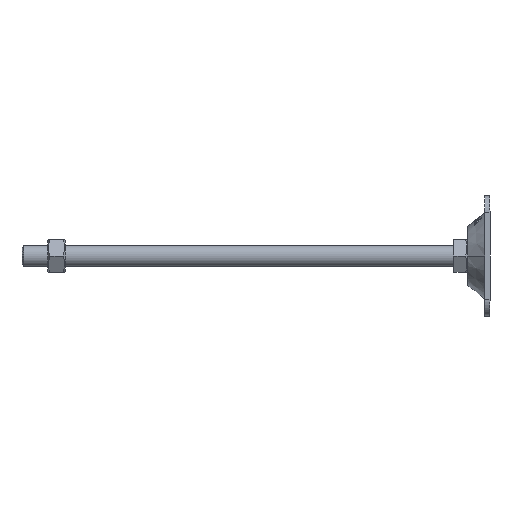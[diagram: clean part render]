
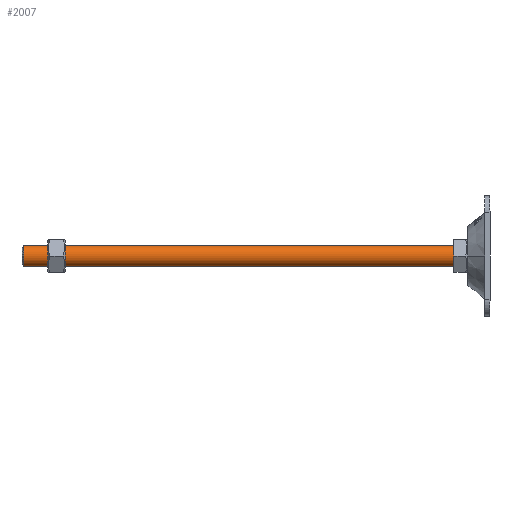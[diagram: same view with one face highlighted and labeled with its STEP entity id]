
A CAD part, left-side view. The second image highlights one B-rep face of the part: STEP entity #2007.
In plain terms, the highlighted cylindrical face has radius 6 mm (diameter 12 mm), a partial arc.
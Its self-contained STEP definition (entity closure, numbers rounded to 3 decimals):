
#22 = CARTESIAN_POINT ( 'NONE',  ( 0., 257., 6. ) ) ;
#530 = VERTEX_POINT ( 'NONE', #3983 ) ;
#635 = VECTOR ( 'NONE', #4912, 1000. ) ;
#636 = DIRECTION ( 'NONE',  ( 0., 0., -1. ) ) ;
#969 = CYLINDRICAL_SURFACE ( 'NONE', #4351, 6. ) ;
#1223 = DIRECTION ( 'NONE',  ( 0., 0., -1. ) ) ;
#1251 = LINE ( 'NONE', #2594, #635 ) ;
#1325 = LINE ( 'NONE', #5069, #2928 ) ;
#1410 = DIRECTION ( 'NONE',  ( 0., -1., 0. ) ) ;
#1411 = CARTESIAN_POINT ( 'NONE',  ( 0., 8., 6. ) ) ;
#1574 = CIRCLE ( 'NONE', #4933, 6. ) ;
#1758 = CARTESIAN_POINT ( 'NONE',  ( 0., 257., 0. ) ) ;
#2007 = ADVANCED_FACE ( 'NONE', ( #5075 ), #969, .T. ) ;
#2102 = ORIENTED_EDGE ( 'NONE', *, *, #3521, .T. ) ;
#2594 = CARTESIAN_POINT ( 'NONE',  ( 0., 6., 6. ) ) ;
#2739 = AXIS2_PLACEMENT_3D ( 'NONE', #3769, #5070, #2881 ) ;
#2881 = DIRECTION ( 'NONE',  ( 0., 0., 1. ) ) ;
#2928 = VECTOR ( 'NONE', #1410, 1000. ) ;
#2960 = ORIENTED_EDGE ( 'NONE', *, *, #5291, .F. ) ;
#2971 = DIRECTION ( 'NONE',  ( 0., -1., 0. ) ) ;
#3038 = CARTESIAN_POINT ( 'NONE',  ( 0., 6., 0. ) ) ;
#3521 = EDGE_CURVE ( 'NONE', #3691, #5187, #1574, .T. ) ;
#3691 = VERTEX_POINT ( 'NONE', #22 ) ;
#3769 = CARTESIAN_POINT ( 'NONE',  ( 0., 8., 0. ) ) ;
#3801 = ORIENTED_EDGE ( 'NONE', *, *, #5010, .T. ) ;
#3910 = CIRCLE ( 'NONE', #2739, 6. ) ;
#3983 = CARTESIAN_POINT ( 'NONE',  ( 0., 8., -6. ) ) ;
#4082 = DIRECTION ( 'NONE',  ( 0., -1., 0. ) ) ;
#4188 = EDGE_CURVE ( 'NONE', #5187, #530, #1325, .T. ) ;
#4351 = AXIS2_PLACEMENT_3D ( 'NONE', #3038, #2971, #636 ) ;
#4476 = EDGE_LOOP ( 'NONE', ( #2960, #2102, #4487, #3801 ) ) ;
#4487 = ORIENTED_EDGE ( 'NONE', *, *, #4188, .T. ) ;
#4795 = CARTESIAN_POINT ( 'NONE',  ( 0., 257., -6. ) ) ;
#4899 = VERTEX_POINT ( 'NONE', #1411 ) ;
#4912 = DIRECTION ( 'NONE',  ( 0., -1., 0. ) ) ;
#4933 = AXIS2_PLACEMENT_3D ( 'NONE', #1758, #4082, #1223 ) ;
#5010 = EDGE_CURVE ( 'NONE', #530, #4899, #3910, .T. ) ;
#5069 = CARTESIAN_POINT ( 'NONE',  ( 0., 6., -6. ) ) ;
#5070 = DIRECTION ( 'NONE',  ( 0., 1., 0. ) ) ;
#5075 = FACE_OUTER_BOUND ( 'NONE', #4476, .T. ) ;
#5187 = VERTEX_POINT ( 'NONE', #4795 ) ;
#5291 = EDGE_CURVE ( 'NONE', #3691, #4899, #1251, .T. ) ;
